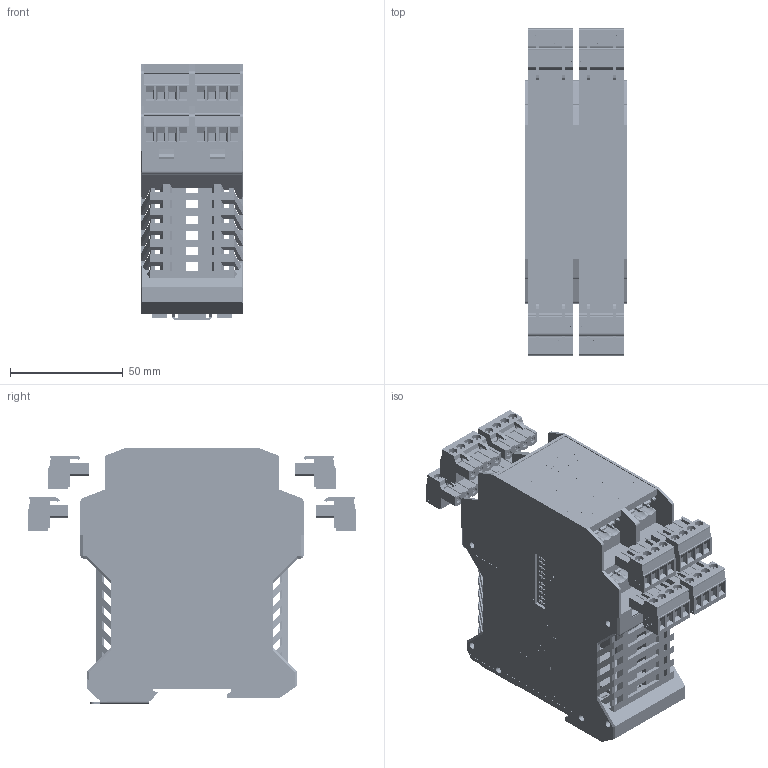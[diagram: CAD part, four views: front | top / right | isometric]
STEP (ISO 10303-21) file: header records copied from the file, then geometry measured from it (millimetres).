
FILE_DESCRIPTION(('STEP AP203'), '1');
FILE_NAME('鍛鍧 BCV-1_', '', ('UNSPECIFIED'), ('UNSPECIFIED'), 'ASCON STEP Converter 1.3', 'ASCON Math Kernel', '');
FILE_SCHEMA(('CONFIG_CONTROL_DESIGN'));
Length unit declared in the file: millimetre
Products named in the file (19): 扻豵鵨; ME_Verriegelungshaken_H.Select__00446697.1.1.1; ME_22.5_UTL_H_H.Select__00392903; ME_22.5_UTR_H_H.Select__00393036; ME_45_UTM_H.Select__00294716; Fussriegel_17.5_L30_H.Select__00315466; ME_45_OT-MSTBO_H.Select__00276796; MSTBO_2_5_4-G1L_H.Select__00364411; MSTBO_2_5_4-G1R_H.Select__00364505; MSTBT_2.5-4-ST
Assembly tree (34 placements, depth 6):
  (unnamed)
    (unnamed)
      (unnamed)
        扻豵鵨
          ME_Verriegelungshaken_H.Select__00446697.1.1.1  x4
          ME_22.5_UTL_H_H.Select__00392903
          ME_22.5_UTR_H_H.Select__00393036
          ME_45_UTM_H.Select__00294716
          Fussriegel_17.5_L30_H.Select__00315466
        (unnamed)
        (unnamed)
      (unnamed)
        (unnamed)
          ME_45_OT-MSTBO_H.Select__00276796
            ME_45_OT-MSTBO_H.Select__00276796
          MSTBO_2_5_4-G1L_H.Select__00364411  x4
          MSTBO_2_5_4-G1R_H.Select__00364505  x4
    MSTBT_2.5-4-ST  x8
      MSTBT_2.5-4-ST
Bounding box: 45.2 x 145.9 x 113.6 mm (x, y, z)
Volume: 119819.7 mm3; surface area: 142710.1 mm2
Topology: 30 solids, 34 shells, 29433 faces, 82671 edges, 54882 vertices
Faces by surface type: plane 19255, cylinder 9744, extrusion 398, cone 36
Full cylindrical faces by diameter (mm): 0.839 x8, 0.879 x8, 1.353 x32, 1.4 x64, 2 x12, 2.47 x8, 2.53 x8, 2.8 x64, 3 x12, 3.125 x4, 3.165 x4, 3.783 x32, 4 x32, 9.025 x4
Entity records: 926642 total; most frequent: CARTESIAN_POINT 133888, ORIENTED_EDGE 129016, DIRECTION 127179, EDGE_CURVE 64508, VECTOR 46719, LINE 46580, VERTEX_POINT 43008, AXIS2_PLACEMENT_3D 40230
